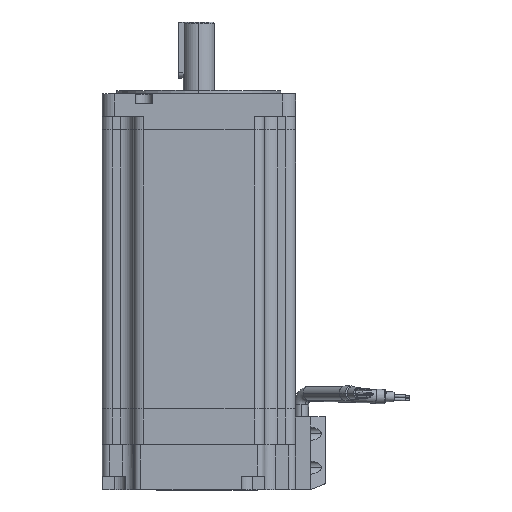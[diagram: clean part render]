
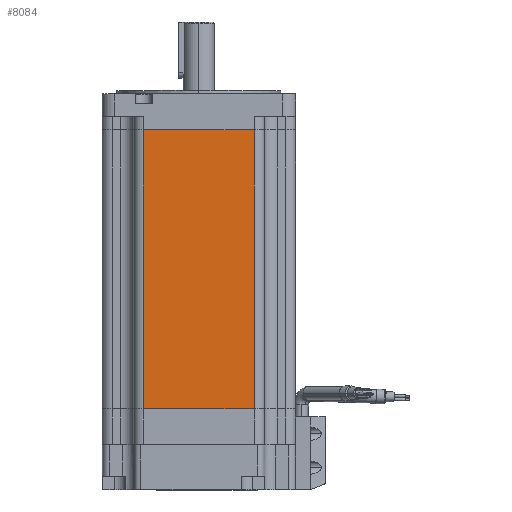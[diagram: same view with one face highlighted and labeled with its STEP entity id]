
A CAD part, top view. The second image highlights one B-rep face of the part: STEP entity #8084.
In plain terms, the highlighted planar face has unit normal (0, 0, 1).
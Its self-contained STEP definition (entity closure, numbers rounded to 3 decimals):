
#153 = VECTOR ( 'NONE', #11259, 1000. ) ;
#304 = AXIS2_PLACEMENT_3D ( 'NONE', #2878, #6994, #7803 ) ;
#1667 = ORIENTED_EDGE ( 'NONE', *, *, #3008, .F. ) ;
#1751 = FACE_OUTER_BOUND ( 'NONE', #5129, .T. ) ;
#1821 = EDGE_CURVE ( 'NONE', #10698, #8673, #10382, .T. ) ;
#2091 = LINE ( 'NONE', #6130, #9185 ) ;
#2096 = VERTEX_POINT ( 'NONE', #6803 ) ;
#2715 = DIRECTION ( 'NONE',  ( 1., 0., 0. ) ) ;
#2878 = CARTESIAN_POINT ( 'NONE',  ( 37.3, 10., 43. ) ) ;
#3008 = EDGE_CURVE ( 'NONE', #2096, #10698, #2091, .T. ) ;
#3125 = CARTESIAN_POINT ( 'NONE',  ( 24.65, -146., 43. ) ) ;
#4039 = DIRECTION ( 'NONE',  ( -1., 0., 0. ) ) ;
#4095 = CARTESIAN_POINT ( 'NONE',  ( 24.65, -6.008, 43. ) ) ;
#4166 = VECTOR ( 'NONE', #9192, 1000. ) ;
#4559 = ORIENTED_EDGE ( 'NONE', *, *, #8618, .T. ) ;
#5129 = EDGE_LOOP ( 'NONE', ( #1667, #4559, #11199, #9109 ) ) ;
#5662 = CARTESIAN_POINT ( 'NONE',  ( -24.65, -6.008, 43. ) ) ;
#5677 = LINE ( 'NONE', #8984, #10772 ) ;
#5912 = PLANE ( 'NONE',  #304 ) ;
#6130 = CARTESIAN_POINT ( 'NONE',  ( 37.3, -129.992, 43. ) ) ;
#6803 = CARTESIAN_POINT ( 'NONE',  ( 24.65, -129.992, 43. ) ) ;
#6994 = DIRECTION ( 'NONE',  ( 0., 0., -1. ) ) ;
#7803 = DIRECTION ( 'NONE',  ( -1., 0., 0. ) ) ;
#8084 = ADVANCED_FACE ( 'NONE', ( #1751 ), #5912, .F. ) ;
#8251 = LINE ( 'NONE', #3125, #4166 ) ;
#8618 = EDGE_CURVE ( 'NONE', #2096, #12348, #8251, .T. ) ;
#8673 = VERTEX_POINT ( 'NONE', #5662 ) ;
#8984 = CARTESIAN_POINT ( 'NONE',  ( 37.3, -6.008, 43. ) ) ;
#9109 = ORIENTED_EDGE ( 'NONE', *, *, #1821, .F. ) ;
#9185 = VECTOR ( 'NONE', #4039, 1000. ) ;
#9192 = DIRECTION ( 'NONE',  ( 0., 1., 0. ) ) ;
#10183 = CARTESIAN_POINT ( 'NONE',  ( -24.65, -146., 43. ) ) ;
#10382 = LINE ( 'NONE', #10183, #153 ) ;
#10569 = CARTESIAN_POINT ( 'NONE',  ( -24.65, -129.992, 43. ) ) ;
#10698 = VERTEX_POINT ( 'NONE', #10569 ) ;
#10772 = VECTOR ( 'NONE', #2715, 1000. ) ;
#11199 = ORIENTED_EDGE ( 'NONE', *, *, #11886, .F. ) ;
#11259 = DIRECTION ( 'NONE',  ( 0., 1., 0. ) ) ;
#11886 = EDGE_CURVE ( 'NONE', #8673, #12348, #5677, .T. ) ;
#12348 = VERTEX_POINT ( 'NONE', #4095 ) ;
